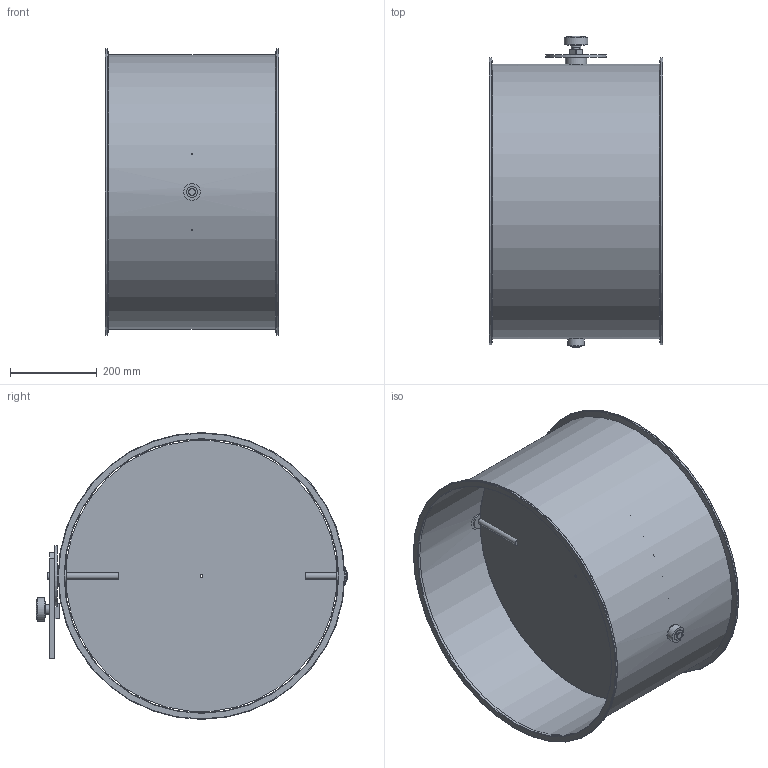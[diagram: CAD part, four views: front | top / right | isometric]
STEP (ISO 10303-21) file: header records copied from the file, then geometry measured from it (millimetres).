
FILE_DESCRIPTION(/* description */ (''),/* implementation_level */ '2;1');
FILE_NAME(/* name */ 'METU_Drosselklappe_Flansch_verzinkt_EA113-80B__630_L400_handbetaetigt.stp',/* time_stamp */ '2022-04-22T14:00:03+02:00',/* author */ (''),/* organization */ (''),/* preprocessor_version */ 'ST-DEVELOPER v11',/* originating_system */ 'SIEMENS UGS NX 6.0',/* authorisation */ '');
FILE_SCHEMA (('CONFIG_CONTROL_DESIGN'));
Length unit declared in the file: millimetre
Products named in the file (1): d.ga332Aq8u4
Bounding box: 400 x 717.34 x 660 mm (x, y, z)
Volume: 1866563.6 mm3; surface area: 2404527.4 mm2
Topology: 12 solids, 12 shells, 88 faces, 180 edges, 122 vertices
Faces by surface type: plane 41, cylinder 37, torus 6, cone 2, sphere 2
Full cylindrical faces by diameter (mm): 6 x7, 8.5 x1, 10 x1, 11 x1, 15 x5, 22 x1, 25 x3, 25.85 x2, 26 x2, 38 x3, 48 x1, 49 x1, 55 x1, 140 x1, 630 x1, 632 x1, 660 x2
Entity records: 2200 total; most frequent: CARTESIAN_POINT 387, DIRECTION 374, ORIENTED_EDGE 246, EDGE_LOOP 172, AXIS2_PLACEMENT_3D 166, FACE_BOUND 150, EDGE_CURVE 123, VERTEX_POINT 107
